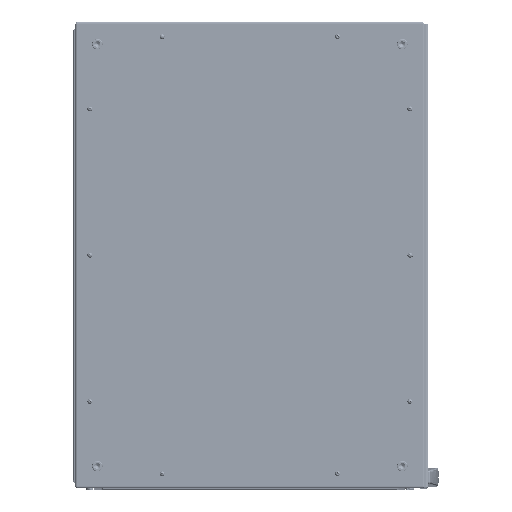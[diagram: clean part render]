
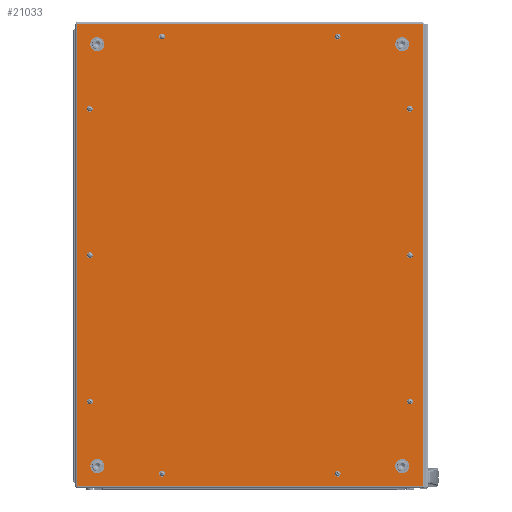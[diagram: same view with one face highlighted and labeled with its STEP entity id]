
A CAD part, top view. The second image highlights one B-rep face of the part: STEP entity #21033.
In plain terms, the highlighted planar face has unit normal (0, 0, 1).
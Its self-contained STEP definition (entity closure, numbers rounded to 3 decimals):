
#21033=ADVANCED_FACE('',(#123104,#123106,#123108,#123110,#123112,#123114,#123116,
#123118,#123120,#123122,#123124,#123126,#123128,#123130,#123132),#123134,.T.);
#123104=FACE_BOUND('',#123105,.T.);
#123105=EDGE_LOOP('',(#201648,#201649,#201650,#201651));
#123106=FACE_BOUND('',#123107,.T.);
#123107=EDGE_LOOP('',(#201652));
#123108=FACE_BOUND('',#123109,.T.);
#123109=EDGE_LOOP('',(#201653));
#123110=FACE_BOUND('',#123111,.T.);
#123111=EDGE_LOOP('',(#201654));
#123112=FACE_BOUND('',#123113,.T.);
#123113=EDGE_LOOP('',(#201655));
#123114=FACE_BOUND('',#123115,.T.);
#123115=EDGE_LOOP('',(#201656));
#123116=FACE_BOUND('',#123117,.T.);
#123117=EDGE_LOOP('',(#201657));
#123118=FACE_BOUND('',#123119,.T.);
#123119=EDGE_LOOP('',(#201658));
#123120=FACE_BOUND('',#123121,.T.);
#123121=EDGE_LOOP('',(#201659));
#123122=FACE_BOUND('',#123123,.T.);
#123123=EDGE_LOOP('',(#201660));
#123124=FACE_BOUND('',#123125,.T.);
#123125=EDGE_LOOP('',(#201661));
#123126=FACE_BOUND('',#123127,.T.);
#123127=EDGE_LOOP('',(#201662));
#123128=FACE_BOUND('',#123129,.T.);
#123129=EDGE_LOOP('',(#201663));
#123130=FACE_BOUND('',#123131,.T.);
#123131=EDGE_LOOP('',(#201664));
#123132=FACE_BOUND('',#123133,.T.);
#123133=EDGE_LOOP('',(#201665));
#123134=PLANE('',#123135);
#123135=AXIS2_PLACEMENT_3D('',#123136,#123137,#123138);
#123136=CARTESIAN_POINT('',(0.,0.,1.5));
#123137=DIRECTION('',(0.,0.,1.));
#123138=DIRECTION('',(0.,1.,0.));
#201648=ORIENTED_EDGE('',*,*,#237778,.T.);
#201649=ORIENTED_EDGE('',*,*,#237779,.T.);
#201650=ORIENTED_EDGE('',*,*,#237780,.T.);
#201651=ORIENTED_EDGE('',*,*,#237781,.T.);
#201652=ORIENTED_EDGE('',*,*,#237757,.T.);
#201653=ORIENTED_EDGE('',*,*,#237756,.T.);
#201654=ORIENTED_EDGE('',*,*,#237755,.T.);
#201655=ORIENTED_EDGE('',*,*,#237754,.T.);
#201656=ORIENTED_EDGE('',*,*,#237753,.T.);
#201657=ORIENTED_EDGE('',*,*,#237752,.T.);
#201658=ORIENTED_EDGE('',*,*,#237748,.T.);
#201659=ORIENTED_EDGE('',*,*,#237749,.T.);
#201660=ORIENTED_EDGE('',*,*,#237750,.T.);
#201661=ORIENTED_EDGE('',*,*,#237751,.T.);
#201662=ORIENTED_EDGE('',*,*,#237746,.T.);
#201663=ORIENTED_EDGE('',*,*,#237745,.T.);
#201664=ORIENTED_EDGE('',*,*,#237744,.T.);
#201665=ORIENTED_EDGE('',*,*,#237743,.T.);
#237743=EDGE_CURVE('',#290294,#290294,#290295,.F.);
#237744=EDGE_CURVE('',#290296,#290296,#290297,.F.);
#237745=EDGE_CURVE('',#290298,#290298,#290299,.F.);
#237746=EDGE_CURVE('',#290300,#290300,#290301,.F.);
#237748=EDGE_CURVE('',#290304,#290304,#290305,.F.);
#237749=EDGE_CURVE('',#290306,#290306,#290307,.F.);
#237750=EDGE_CURVE('',#290308,#290308,#290309,.F.);
#237751=EDGE_CURVE('',#290310,#290310,#290311,.F.);
#237752=EDGE_CURVE('',#290312,#290312,#290313,.F.);
#237753=EDGE_CURVE('',#290314,#290314,#290315,.F.);
#237754=EDGE_CURVE('',#290316,#290316,#290317,.F.);
#237755=EDGE_CURVE('',#290318,#290318,#290319,.F.);
#237756=EDGE_CURVE('',#290320,#290320,#290321,.F.);
#237757=EDGE_CURVE('',#290322,#290322,#290323,.F.);
#237778=EDGE_CURVE('',#290360,#290361,#290362,.T.);
#237779=EDGE_CURVE('',#290361,#290363,#290364,.T.);
#237780=EDGE_CURVE('',#290363,#290365,#290366,.T.);
#237781=EDGE_CURVE('',#290365,#290360,#290367,.T.);
#290294=VERTEX_POINT('',#410139);
#290295=CIRCLE('',#410140,3.75);
#290296=VERTEX_POINT('',#410144);
#290297=CIRCLE('',#410145,3.75);
#290298=VERTEX_POINT('',#410149);
#290299=CIRCLE('',#410150,3.75);
#290300=VERTEX_POINT('',#410154);
#290301=CIRCLE('',#410155,3.75);
#290304=VERTEX_POINT('',#410164);
#290305=CIRCLE('',#410165,7.);
#290306=VERTEX_POINT('',#410169);
#290307=CIRCLE('',#410170,7.);
#290308=VERTEX_POINT('',#410174);
#290309=CIRCLE('',#410175,7.);
#290310=VERTEX_POINT('',#410179);
#290311=CIRCLE('',#410180,7.);
#290312=VERTEX_POINT('',#410184);
#290313=CIRCLE('',#410185,3.75);
#290314=VERTEX_POINT('',#410189);
#290315=CIRCLE('',#410190,3.75);
#290316=VERTEX_POINT('',#410194);
#290317=CIRCLE('',#410195,3.75);
#290318=VERTEX_POINT('',#410199);
#290319=CIRCLE('',#410200,3.75);
#290320=VERTEX_POINT('',#410204);
#290321=CIRCLE('',#410205,3.75);
#290322=VERTEX_POINT('',#410209);
#290323=CIRCLE('',#410210,3.75);
#290360=VERTEX_POINT('',#410426);
#290361=VERTEX_POINT('',#410427);
#290362=LINE('',#410428,#410429);
#290363=VERTEX_POINT('',#410431);
#290364=LINE('',#410432,#410433);
#290365=VERTEX_POINT('',#410435);
#290366=LINE('',#410436,#410437);
#290367=LINE('',#410439,#410440);
#410139=CARTESIAN_POINT('',(-273.5,253.75,1.5));
#410140=AXIS2_PLACEMENT_3D('',#410141,#410142,#410143);
#410141=CARTESIAN_POINT('',(-273.5,250.,1.5));
#410142=DIRECTION('',(0.,0.,1.));
#410143=DIRECTION('',(0.,1.,0.));
#410144=CARTESIAN_POINT('',(273.5,-246.25,1.5));
#410145=AXIS2_PLACEMENT_3D('',#410146,#410147,#410148);
#410146=CARTESIAN_POINT('',(273.5,-250.,1.5));
#410147=DIRECTION('',(0.,0.,1.));
#410148=DIRECTION('',(0.,1.,0.));
#410149=CARTESIAN_POINT('',(273.5,253.75,1.5));
#410150=AXIS2_PLACEMENT_3D('',#410151,#410152,#410153);
#410151=CARTESIAN_POINT('',(273.5,250.,1.5));
#410152=DIRECTION('',(0.,0.,1.));
#410153=DIRECTION('',(0.,1.,0.));
#410154=CARTESIAN_POINT('',(-273.5,-246.25,1.5));
#410155=AXIS2_PLACEMENT_3D('',#410156,#410157,#410158);
#410156=CARTESIAN_POINT('',(-273.5,-250.,1.5));
#410157=DIRECTION('',(0.,0.,1.));
#410158=DIRECTION('',(0.,1.,0.));
#410164=CARTESIAN_POINT('',(260.5,367.5,1.5));
#410165=AXIS2_PLACEMENT_3D('',#410166,#410167,#410168);
#410166=CARTESIAN_POINT('',(260.5,360.5,1.5));
#410167=DIRECTION('',(0.,0.,1.));
#410168=DIRECTION('',(0.,1.,0.));
#410169=CARTESIAN_POINT('',(-260.5,-353.5,1.5));
#410170=AXIS2_PLACEMENT_3D('',#410171,#410172,#410173);
#410171=CARTESIAN_POINT('',(-260.5,-360.5,1.5));
#410172=DIRECTION('',(0.,0.,1.));
#410173=DIRECTION('',(0.,1.,0.));
#410174=CARTESIAN_POINT('',(-260.5,367.5,1.5));
#410175=AXIS2_PLACEMENT_3D('',#410176,#410177,#410178);
#410176=CARTESIAN_POINT('',(-260.5,360.5,1.5));
#410177=DIRECTION('',(0.,0.,1.));
#410178=DIRECTION('',(0.,1.,0.));
#410179=CARTESIAN_POINT('',(260.5,-353.5,1.5));
#410180=AXIS2_PLACEMENT_3D('',#410181,#410182,#410183);
#410181=CARTESIAN_POINT('',(260.5,-360.5,1.5));
#410182=DIRECTION('',(0.,0.,1.));
#410183=DIRECTION('',(0.,1.,0.));
#410184=CARTESIAN_POINT('',(-273.5,3.75,1.5));
#410185=AXIS2_PLACEMENT_3D('',#410186,#410187,#410188);
#410186=CARTESIAN_POINT('',(-273.5,0.,1.5));
#410187=DIRECTION('',(0.,0.,1.));
#410188=DIRECTION('',(0.,1.,0.));
#410189=CARTESIAN_POINT('',(273.5,3.75,1.5));
#410190=AXIS2_PLACEMENT_3D('',#410191,#410192,#410193);
#410191=CARTESIAN_POINT('',(273.5,0.,1.5));
#410192=DIRECTION('',(0.,0.,1.));
#410193=DIRECTION('',(0.,1.,0.));
#410194=CARTESIAN_POINT('',(-150.,-369.75,1.5));
#410195=AXIS2_PLACEMENT_3D('',#410196,#410197,#410198);
#410196=CARTESIAN_POINT('',(-150.,-373.5,1.5));
#410197=DIRECTION('',(0.,0.,1.));
#410198=DIRECTION('',(0.,1.,0.));
#410199=CARTESIAN_POINT('',(150.,377.25,1.5));
#410200=AXIS2_PLACEMENT_3D('',#410201,#410202,#410203);
#410201=CARTESIAN_POINT('',(150.,373.5,1.5));
#410202=DIRECTION('',(0.,0.,1.));
#410203=DIRECTION('',(0.,1.,0.));
#410204=CARTESIAN_POINT('',(-150.,377.25,1.5));
#410205=AXIS2_PLACEMENT_3D('',#410206,#410207,#410208);
#410206=CARTESIAN_POINT('',(-150.,373.5,1.5));
#410207=DIRECTION('',(0.,0.,1.));
#410208=DIRECTION('',(0.,1.,0.));
#410209=CARTESIAN_POINT('',(150.,-369.75,1.5));
#410210=AXIS2_PLACEMENT_3D('',#410211,#410212,#410213);
#410211=CARTESIAN_POINT('',(150.,-373.5,1.5));
#410212=DIRECTION('',(0.,0.,1.));
#410213=DIRECTION('',(0.,1.,0.));
#410426=CARTESIAN_POINT('',(295.2,395.2,1.5));
#410427=CARTESIAN_POINT('',(-295.2,395.2,1.5));
#410428=CARTESIAN_POINT('',(295.2,395.2,1.5));
#410429=VECTOR('',#410430,1.);
#410430=DIRECTION('',(-1.,0.,0.));
#410431=CARTESIAN_POINT('',(-295.2,-395.2,1.5));
#410432=CARTESIAN_POINT('',(-295.2,395.2,1.5));
#410433=VECTOR('',#410434,1.);
#410434=DIRECTION('',(0.,-1.,0.));
#410435=CARTESIAN_POINT('',(295.2,-395.2,1.5));
#410436=CARTESIAN_POINT('',(-295.2,-395.2,1.5));
#410437=VECTOR('',#410438,1.);
#410438=DIRECTION('',(1.,0.,0.));
#410439=CARTESIAN_POINT('',(295.2,-395.2,1.5));
#410440=VECTOR('',#410441,1.);
#410441=DIRECTION('',(0.,1.,0.));
